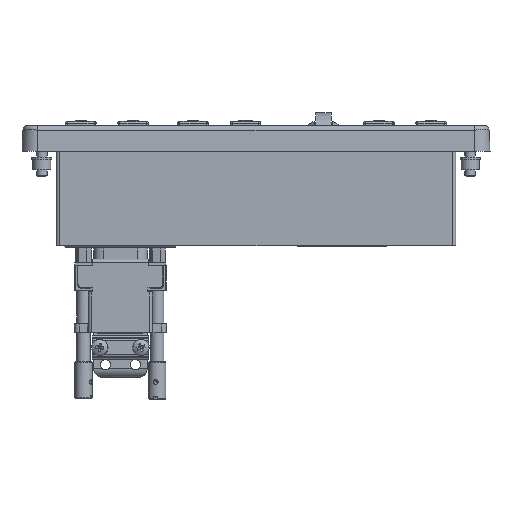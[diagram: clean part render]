
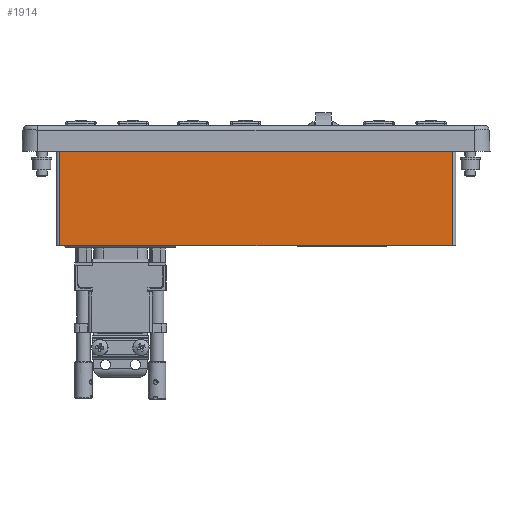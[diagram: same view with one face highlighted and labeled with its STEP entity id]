
A CAD part, front view. The second image highlights one B-rep face of the part: STEP entity #1914.
In plain terms, the highlighted planar face has unit normal (0, -1, 0).
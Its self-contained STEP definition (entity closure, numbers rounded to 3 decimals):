
#1914 = ADVANCED_FACE ( 'NONE', ( #11315 ), #4330, .T. ) ;
#3556 = EDGE_CURVE ( 'NONE', #45260, #48942, #8202, .T. ) ;
#4330 = PLANE ( 'NONE',  #29811 ) ;
#4649 = CARTESIAN_POINT ( 'NONE',  ( -79.375, -21.463, 0. ) ) ;
#8202 = LINE ( 'NONE', #4649, #27537 ) ;
#8926 = EDGE_CURVE ( 'NONE', #10205, #43080, #46074, .T. ) ;
#10205 = VERTEX_POINT ( 'NONE', #19442 ) ;
#10896 = CARTESIAN_POINT ( 'NONE',  ( 66.618, -21.463, 0. ) ) ;
#11195 = CARTESIAN_POINT ( 'NONE',  ( -66.618, -21.463, 0. ) ) ;
#11315 = FACE_OUTER_BOUND ( 'NONE', #46938, .T. ) ;
#12154 = DIRECTION ( 'NONE',  ( 0., 0., -1. ) ) ;
#13931 = DIRECTION ( 'NONE',  ( -1., 0., 0. ) ) ;
#14530 = CARTESIAN_POINT ( 'NONE',  ( -66.618, -21.463, 148.921 ) ) ;
#15253 = DIRECTION ( 'NONE',  ( 0., 0., -1. ) ) ;
#19117 = ORIENTED_EDGE ( 'NONE', *, *, #24658, .F. ) ;
#19442 = CARTESIAN_POINT ( 'NONE',  ( 66.618, -21.463, -32.156 ) ) ;
#22995 = CARTESIAN_POINT ( 'NONE',  ( 66.618, -21.463, 148.921 ) ) ;
#24109 = DIRECTION ( 'NONE',  ( 1., 0., 0. ) ) ;
#24182 = LINE ( 'NONE', #22995, #34460 ) ;
#24658 = EDGE_CURVE ( 'NONE', #48942, #10205, #24182, .T. ) ;
#27530 = VECTOR ( 'NONE', #30007, 1000. ) ;
#27537 = VECTOR ( 'NONE', #24109, 1000. ) ;
#29811 = AXIS2_PLACEMENT_3D ( 'NONE', #31378, #35275, #12154 ) ;
#30007 = DIRECTION ( 'NONE',  ( 0., 0., -1. ) ) ;
#30509 = CARTESIAN_POINT ( 'NONE',  ( -66.618, -21.463, -32.156 ) ) ;
#31378 = CARTESIAN_POINT ( 'NONE',  ( 66.618, -21.463, 148.921 ) ) ;
#34460 = VECTOR ( 'NONE', #15253, 1000. ) ;
#35275 = DIRECTION ( 'NONE',  ( 0., -1., 0. ) ) ;
#35364 = ORIENTED_EDGE ( 'NONE', *, *, #36477, .T. ) ;
#36477 = EDGE_CURVE ( 'NONE', #45260, #43080, #37804, .T. ) ;
#37019 = CARTESIAN_POINT ( 'NONE',  ( 66.618, -21.463, -32.156 ) ) ;
#37804 = LINE ( 'NONE', #14530, #27530 ) ;
#43080 = VERTEX_POINT ( 'NONE', #30509 ) ;
#44884 = VECTOR ( 'NONE', #13931, 1000. ) ;
#45260 = VERTEX_POINT ( 'NONE', #11195 ) ;
#46074 = LINE ( 'NONE', #37019, #44884 ) ;
#46107 = ORIENTED_EDGE ( 'NONE', *, *, #3556, .F. ) ;
#46938 = EDGE_LOOP ( 'NONE', ( #46107, #35364, #47211, #19117 ) ) ;
#47211 = ORIENTED_EDGE ( 'NONE', *, *, #8926, .F. ) ;
#48942 = VERTEX_POINT ( 'NONE', #10896 ) ;
